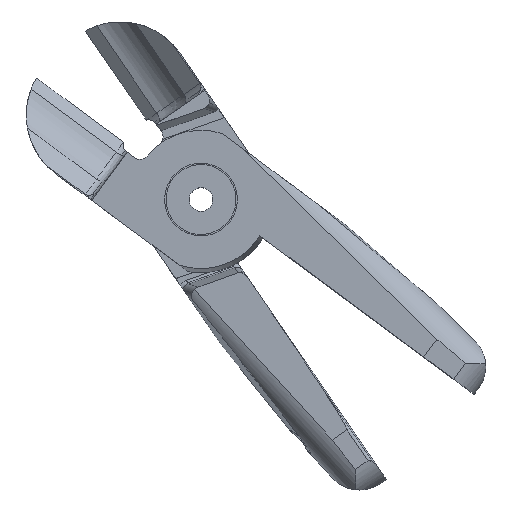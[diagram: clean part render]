
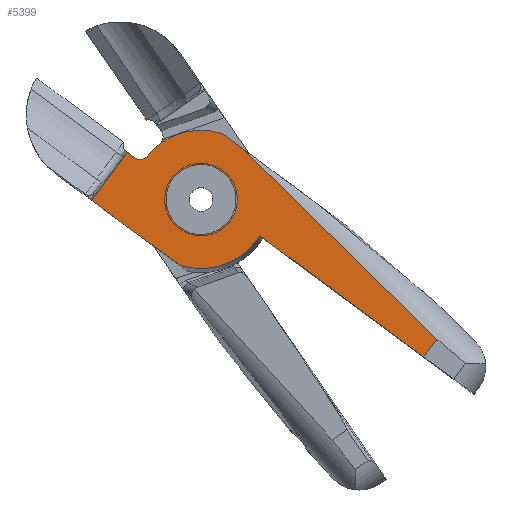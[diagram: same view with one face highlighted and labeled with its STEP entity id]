
A CAD part, top view. The second image highlights one B-rep face of the part: STEP entity #5399.
In plain terms, the highlighted planar face has unit normal (0, 0, 1) as drawn and (0, 0, -1) by its records, which use the part's own axes.
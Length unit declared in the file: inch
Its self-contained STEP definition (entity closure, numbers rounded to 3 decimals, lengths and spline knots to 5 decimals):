
#3729=CARTESIAN_POINT('',(0.8717,1.16708,0.099));
#3730=VERTEX_POINT('',#3729);
#3738=CARTESIAN_POINT('',(0.39231,1.16708,0.099));
#3739=VERTEX_POINT('',#3738);
#3746=CARTESIAN_POINT('',(0.632,1.16708,0.099));
#3747=DIRECTION('',(0.0,0.0,-1.0));
#3748=DIRECTION('',(1.0,0.0,0.0));
#3749=AXIS2_PLACEMENT_3D('',#3746,#3747,#3748);
#3750=CIRCLE('',#3749,0.2397);
#3751=EDGE_CURVE('',#3739,#3730,#3750,.T.);
#4266=CARTESIAN_POINT('',(1.10537,1.16708,0.099));
#4267=VERTEX_POINT('',#4266);
#4275=CARTESIAN_POINT('',(0.77888,1.61708,0.099));
#4276=VERTEX_POINT('',#4275);
#4277=CARTESIAN_POINT('',(0.632,1.16708,0.099));
#4278=DIRECTION('',(0.0,0.0,1.0));
#4279=DIRECTION('',(1.0,0.0,0.0));
#4280=AXIS2_PLACEMENT_3D('',#4277,#4278,#4279);
#4281=CIRCLE('',#4280,0.47336);
#4282=EDGE_CURVE('',#4267,#4276,#4281,.T.);
#4659=CARTESIAN_POINT('',(0.66343,0.71708,0.099));
#4660=VERTEX_POINT('',#4659);
#4668=CARTESIAN_POINT('',(2.50055,0.97527,0.099));
#4669=VERTEX_POINT('',#4668);
#4670=CARTESIAN_POINT('',(2.50055,0.97527,0.099));
#4671=DIRECTION('',(-0.99,-0.139,0.0));
#4672=VECTOR('',#4671,1.85518);
#4673=LINE('',#4670,#4672);
#4674=EDGE_CURVE('',#4669,#4660,#4673,.T.);
#4773=CARTESIAN_POINT('',(0.47994,0.71708,0.099));
#4774=VERTEX_POINT('',#4773);
#4781=CARTESIAN_POINT('',(0.47994,0.71708,0.099));
#4782=DIRECTION('',(1.0,0.0,0.0));
#4783=VECTOR('',#4782,0.18349);
#4784=LINE('',#4781,#4783);
#4785=EDGE_CURVE('',#4774,#4660,#4784,.T.);
#5191=CARTESIAN_POINT('',(0.03196,1.61708,0.099));
#5192=VERTEX_POINT('',#5191);
#5193=CARTESIAN_POINT('',(0.03196,1.61708,0.099));
#5194=DIRECTION('',(1.0,0.0,0.0));
#5195=VECTOR('',#5194,0.74692);
#5196=LINE('',#5193,#5195);
#5197=EDGE_CURVE('',#5192,#4276,#5196,.T.);
#5288=CARTESIAN_POINT('',(0.03196,1.20708,0.099));
#5289=VERTEX_POINT('',#5288);
#5290=CARTESIAN_POINT('',(0.03196,1.61708,0.099));
#5291=DIRECTION('',(0.0,-1.0,0.0));
#5292=VECTOR('',#5291,0.41);
#5293=LINE('',#5290,#5292);
#5294=EDGE_CURVE('',#5192,#5289,#5293,.T.);
#5330=CARTESIAN_POINT('',(2.6985,0.67708,0.099));
#5331=DIRECTION('',(0.0,0.0,1.0));
#5332=DIRECTION('',(1.0,0.0,0.0));
#5333=AXIS2_PLACEMENT_3D('',#5330,#5331,#5332);
#5334=PLANE('',#5333);
#5335=ORIENTED_EDGE('',*,*,#4674,.T.);
#5336=ORIENTED_EDGE('',*,*,#4785,.F.);
#5337=CARTESIAN_POINT('',(0.1574,1.14762,0.099));
#5338=VERTEX_POINT('',#5337);
#5339=CARTESIAN_POINT('',(0.632,1.16708,0.099));
#5340=DIRECTION('',(0.0,0.0,1.0));
#5341=DIRECTION('',(1.0,0.0,0.0));
#5342=AXIS2_PLACEMENT_3D('',#5339,#5340,#5341);
#5343=CIRCLE('',#5342,0.475);
#5344=EDGE_CURVE('',#5338,#4774,#5343,.T.);
#5345=ORIENTED_EDGE('',*,*,#5344,.F.);
#5346=CARTESIAN_POINT('',(0.09545,1.20708,0.099));
#5347=VERTEX_POINT('',#5346);
#5348=CARTESIAN_POINT('',(0.09545,1.14508,0.099));
#5349=DIRECTION('',(0.0,0.0,-1.0));
#5350=DIRECTION('',(0.0,-1.0,0.0));
#5351=AXIS2_PLACEMENT_3D('',#5348,#5349,#5350);
#5352=CIRCLE('',#5351,0.062);
#5353=EDGE_CURVE('',#5347,#5338,#5352,.T.);
#5354=ORIENTED_EDGE('',*,*,#5353,.F.);
#5355=CARTESIAN_POINT('',(0.03196,1.20708,0.099));
#5356=DIRECTION('',(1.0,0.0,0.0));
#5357=VECTOR('',#5356,0.06349);
#5358=LINE('',#5355,#5357);
#5359=EDGE_CURVE('',#5289,#5347,#5358,.T.);
#5360=ORIENTED_EDGE('',*,*,#5359,.F.);
#5361=ORIENTED_EDGE('',*,*,#5294,.F.);
#5362=ORIENTED_EDGE('',*,*,#5197,.T.);
#5363=ORIENTED_EDGE('',*,*,#4282,.F.);
#5364=CARTESIAN_POINT('',(1.10362,1.12647,0.099));
#5365=VERTEX_POINT('',#5364);
#5366=CARTESIAN_POINT('',(0.632,1.16708,0.099));
#5367=DIRECTION('',(0.0,0.0,1.0));
#5368=DIRECTION('',(1.0,0.0,0.0));
#5369=AXIS2_PLACEMENT_3D('',#5366,#5367,#5368);
#5370=CIRCLE('',#5369,0.47336);
#5371=EDGE_CURVE('',#5365,#4267,#5370,.T.);
#5372=ORIENTED_EDGE('',*,*,#5371,.F.);
#5373=CARTESIAN_POINT('',(2.50055,1.12647,0.099));
#5374=VERTEX_POINT('',#5373);
#5375=CARTESIAN_POINT('',(2.50055,1.12647,0.099));
#5376=DIRECTION('',(-1.,0.,0.));
#5377=VECTOR('',#5376,1.39693);
#5378=LINE('',#5375,#5377);
#5379=EDGE_CURVE('',#5374,#5365,#5378,.T.);
#5380=ORIENTED_EDGE('',*,*,#5379,.F.);
#5381=CARTESIAN_POINT('',(2.50055,0.97527,0.099));
#5382=DIRECTION('',(0.0,1.0,0.0));
#5383=VECTOR('',#5382,0.1512);
#5384=LINE('',#5381,#5383);
#5385=EDGE_CURVE('',#4669,#5374,#5384,.T.);
#5386=ORIENTED_EDGE('',*,*,#5385,.F.);
#5387=EDGE_LOOP('',(#5335,#5336,#5345,#5354,#5360,#5361,#5362,#5363,#5372,#5380,#5386));
#5388=FACE_OUTER_BOUND('',#5387,.T.);
#5389=ORIENTED_EDGE('',*,*,#3751,.F.);
#5390=CARTESIAN_POINT('',(0.632,1.16708,0.099));
#5391=DIRECTION('',(0.0,0.0,-1.0));
#5392=DIRECTION('',(1.0,0.0,0.0));
#5393=AXIS2_PLACEMENT_3D('',#5390,#5391,#5392);
#5394=CIRCLE('',#5393,0.2397);
#5395=EDGE_CURVE('',#3730,#3739,#5394,.T.);
#5396=ORIENTED_EDGE('',*,*,#5395,.F.);
#5397=EDGE_LOOP('',(#5389,#5396));
#5398=FACE_BOUND('',#5397,.T.);
#5399=ADVANCED_FACE('',(#5388,#5398),#5334,.F.);
